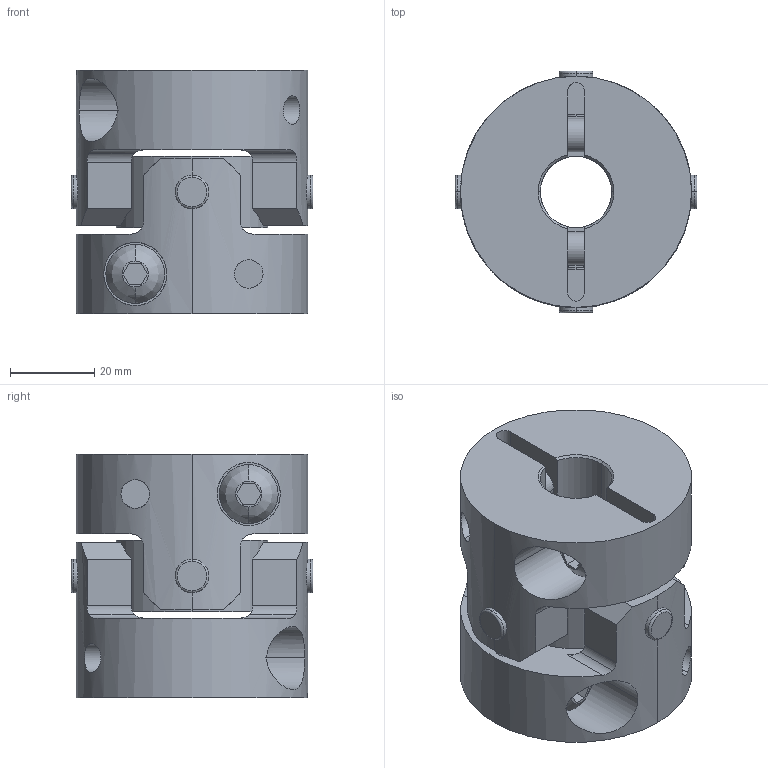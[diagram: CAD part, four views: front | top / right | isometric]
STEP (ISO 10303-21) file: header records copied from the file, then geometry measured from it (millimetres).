
FILE_DESCRIPTION((''),'2;1');
FILE_NAME('UA-55C-17×17.stp','2013-05-22T11:53:20',(''),(''),'AutoCAD STEP 2000i','AutoCAD 2000i',', , ');
FILE_SCHEMA(('CONFIG_CONTROL_DESIGN'));
Length unit declared in the file: millimetre
Products named in the file (6): UA-55C-10×10; 忣兜1; UA-5502-D10-1; BTN-M8; UA-5502-D10; UA55-SEN
Assembly tree (6 placements, depth 3):
  UA-55C-10×10
    忣兜1
    UA-5502-D10-1
      BTN-M8
    UA-5502-D10
      BTN-M8
    UA55-SEN
Bounding box: 57.55 x 57.55 x 58 mm (x, y, z)
Volume: 97303.5 mm3; surface area: 31698.9 mm2
Topology: 1 solids, 1 shells, 206 faces, 554 edges, 364 vertices
Faces by surface type: cylinder 96, plane 78, cone 16, bspline 8, torus 8
Entity records: 8383 total; most frequent: CARTESIAN_POINT 3067, ORIENTED_EDGE 1108, DIRECTION 1064, EDGE_CURVE 554, AXIS2_PLACEMENT_3D 409, VERTEX_POINT 364, VECTOR 246, LINE 246
